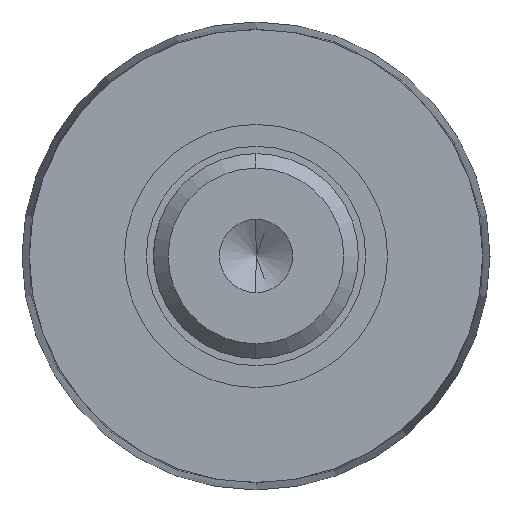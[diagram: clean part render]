
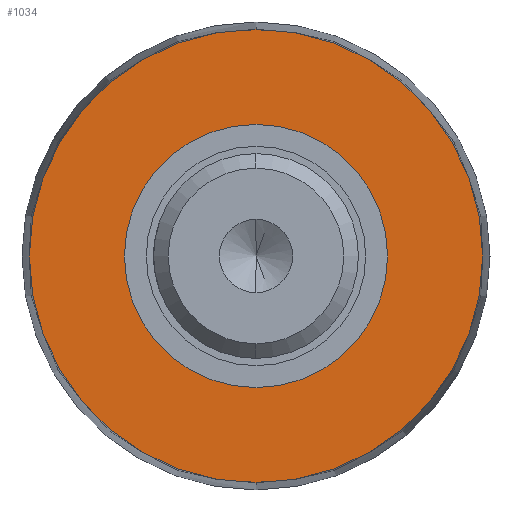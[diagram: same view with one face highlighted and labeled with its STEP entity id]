
A CAD part, left-side view. The second image highlights one B-rep face of the part: STEP entity #1034.
In plain terms, the highlighted planar face has unit normal (-1, 0, 0).
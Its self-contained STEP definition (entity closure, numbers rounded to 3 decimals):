
#17 = CARTESIAN_POINT ( 'NONE',  ( 98.5, 16., 0. ) ) ;
#116 = VERTEX_POINT ( 'NONE', #1063 ) ;
#117 = DIRECTION ( 'NONE',  ( 0., 0., 1. ) ) ;
#119 = AXIS2_PLACEMENT_3D ( 'NONE', #146, #658, #1276 ) ;
#146 = CARTESIAN_POINT ( 'NONE',  ( 98.5, 0., 0. ) ) ;
#307 = EDGE_CURVE ( 'NONE', #358, #116, #945, .T. ) ;
#351 = CARTESIAN_POINT ( 'NONE',  ( 98.5, 0., 0. ) ) ;
#358 = VERTEX_POINT ( 'NONE', #1184 ) ;
#370 = CARTESIAN_POINT ( 'NONE',  ( 98.5, 0., 0. ) ) ;
#402 = DIRECTION ( 'NONE',  ( 0., 0., 1. ) ) ;
#446 = CIRCLE ( 'NONE', #907, 15.5 ) ;
#447 = CARTESIAN_POINT ( 'NONE',  ( 98.5, 0., 9. ) ) ;
#463 = FACE_BOUND ( 'NONE', #635, .T. ) ;
#465 = DIRECTION ( 'NONE',  ( 0., 0., 1. ) ) ;
#505 = AXIS2_PLACEMENT_3D ( 'NONE', #351, #1250, #852 ) ;
#556 = AXIS2_PLACEMENT_3D ( 'NONE', #370, #1178, #465 ) ;
#614 = PLANE ( 'NONE',  #705 ) ;
#635 = EDGE_LOOP ( 'NONE', ( #685, #1041 ) ) ;
#658 = DIRECTION ( 'NONE',  ( 1., 0., 0. ) ) ;
#685 = ORIENTED_EDGE ( 'NONE', *, *, #736, .T. ) ;
#705 = AXIS2_PLACEMENT_3D ( 'NONE', #17, #1128, #117 ) ;
#736 = EDGE_CURVE ( 'NONE', #862, #748, #1231, .T. ) ;
#748 = VERTEX_POINT ( 'NONE', #447 ) ;
#772 = CIRCLE ( 'NONE', #505, 9. ) ;
#852 = DIRECTION ( 'NONE',  ( 0., 0., -1. ) ) ;
#862 = VERTEX_POINT ( 'NONE', #881 ) ;
#881 = CARTESIAN_POINT ( 'NONE',  ( 98.5, 0., -9. ) ) ;
#907 = AXIS2_PLACEMENT_3D ( 'NONE', #1030, #1026, #402 ) ;
#945 = CIRCLE ( 'NONE', #556, 15.5 ) ;
#962 = ORIENTED_EDGE ( 'NONE', *, *, #307, .T. ) ;
#1024 = EDGE_CURVE ( 'NONE', #116, #358, #446, .T. ) ;
#1026 = DIRECTION ( 'NONE',  ( -1., 0., 0. ) ) ;
#1030 = CARTESIAN_POINT ( 'NONE',  ( 98.5, 0., 0. ) ) ;
#1034 = ADVANCED_FACE ( 'NONE', ( #463, #1240 ), #614, .T. ) ;
#1041 = ORIENTED_EDGE ( 'NONE', *, *, #1201, .T. ) ;
#1063 = CARTESIAN_POINT ( 'NONE',  ( 98.5, 0., 15.5 ) ) ;
#1128 = DIRECTION ( 'NONE',  ( -1., 0., 0. ) ) ;
#1137 = ORIENTED_EDGE ( 'NONE', *, *, #1024, .T. ) ;
#1178 = DIRECTION ( 'NONE',  ( -1., 0., 0. ) ) ;
#1182 = EDGE_LOOP ( 'NONE', ( #962, #1137 ) ) ;
#1184 = CARTESIAN_POINT ( 'NONE',  ( 98.5, 0., -15.5 ) ) ;
#1201 = EDGE_CURVE ( 'NONE', #748, #862, #772, .T. ) ;
#1231 = CIRCLE ( 'NONE', #119, 9. ) ;
#1240 = FACE_OUTER_BOUND ( 'NONE', #1182, .T. ) ;
#1250 = DIRECTION ( 'NONE',  ( 1., 0., 0. ) ) ;
#1276 = DIRECTION ( 'NONE',  ( 0., 0., -1. ) ) ;
